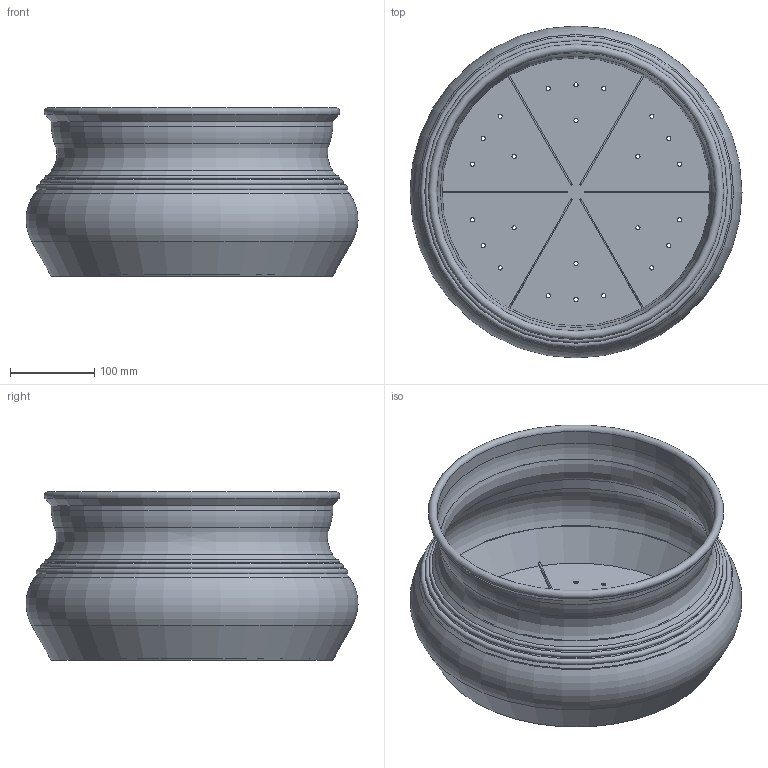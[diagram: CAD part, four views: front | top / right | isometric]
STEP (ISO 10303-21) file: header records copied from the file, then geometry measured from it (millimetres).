
FILE_DESCRIPTION(/* description */ (''),/* implementation_level */ '2;1');
FILE_NAME(/* name */ 'LR2406-S17-H200-D400_step.step',/* time_stamp */ '2024-02-01T11:04:18+01:00',/* author */ (''),/* organization */ (''),/* preprocessor_version */ 'ST-DEVELOPER v20',/* originating_system */ 'Autodesk Translation Framework v12.20.1.177',/* authorisation */ '');
FILE_SCHEMA (('AUTOMOTIVE_DESIGN { 1 0 10303 214 3 1 1 }'));
Length unit declared in the file: millimetre
Products named in the file (1): LR2406-S17-H200-D400
Bounding box: 394.7 x 394.7 x 200 mm (x, y, z)
Volume: 719980.8 mm3; surface area: 684458.6 mm2
Topology: 1 solids, 1 shells, 70 faces, 185 edges, 117 vertices
Faces by surface type: cylinder 32, plane 20, torus 10, cone 8
Full cylindrical faces by diameter (mm): 5 x24, 331.36 x1, 334.72 x1
Entity records: 2336 total; most frequent: DIRECTION 430, CARTESIAN_POINT 373, ORIENTED_EDGE 370, EDGE_CURVE 185, AXIS2_PLACEMENT_3D 174, EDGE_LOOP 118, VERTEX_POINT 117, CIRCLE 103
